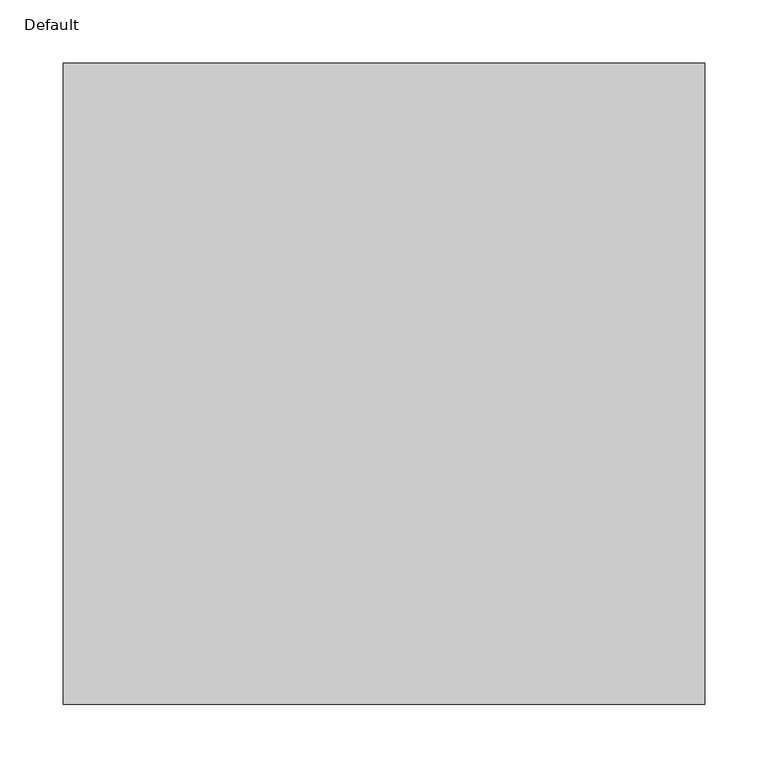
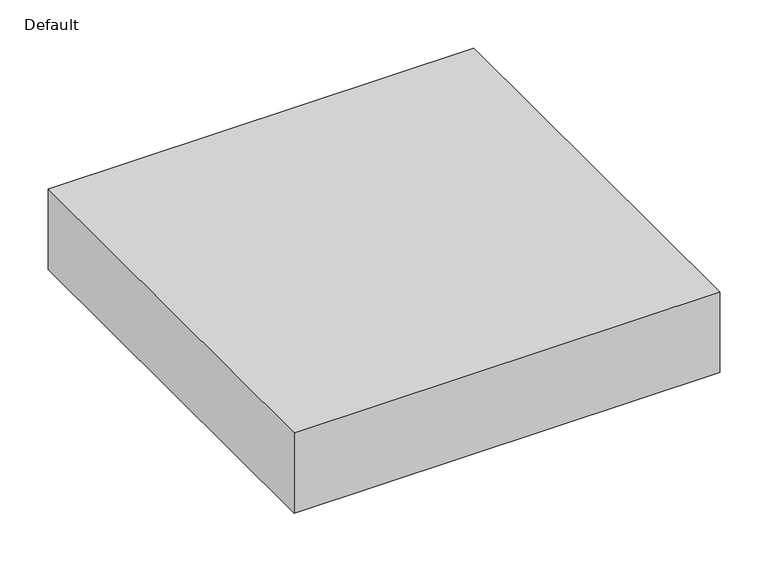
"""IFC4 building model written with IfcOpenShell, lengths in millimetres: proxy geometry, FireBIM Tutorial Control Unit : Default."""

from ifc_helpers import new_model, si_unit, origin, origin_with_axes, place, context, project, spatial, polyline, outline, extrude, source, transform, mapped, element, save


def default_171b59b4(model_context):
    return source(origin(), model_context, "Body", "SweptSolid", [
        extrude(outline(polyline([(254.0, 254.0), (254.0, -254.0), (-254.0, -254.0), (-254.0, 254.0), (254.0, 254.0)])), origin_with_axes(), (0.0, 0.0, 1.0), 101.6),
    ])


if __name__ == "__main__":
    model = new_model("IFC4")
    model_context = context("Model", 3, world=origin())
    ifc_project = project(units=[si_unit("LENGTHUNIT", "METRE", prefix="MILLI")], contexts=[model_context])
    site = spatial("IfcSite", under=ifc_project)
    building = spatial("IfcBuilding", under=site)
    placement = place(None, origin())
    default_shape = default_171b59b4(model_context)
    element("IfcBuildingElementProxy", 1, Name="FireBIM Tutorial Control Unit : Default", ObjectType="FireBIM Tutorial Control Unit : Default", at=placement, inside=building, context=model_context, shape_type="MappedRepresentation", body=[
        mapped(default_shape, transform((0.0, 0.0, 0.0), x_axis=(1.0, 0.0, 0.0), y_axis=(0.0, 1.0, 0.0), z_axis=(0.0, 0.0, 1.0))),
    ])
    save(model, "model.ifc")
